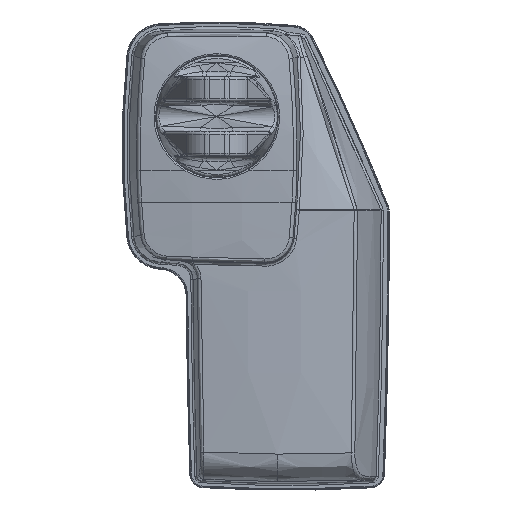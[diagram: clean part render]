
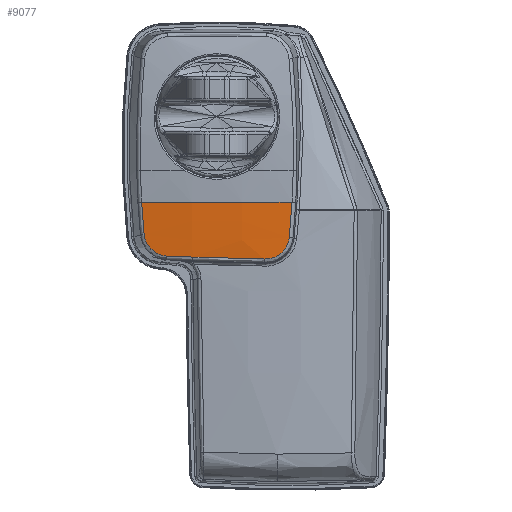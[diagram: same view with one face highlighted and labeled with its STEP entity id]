
A CAD part, top view. The second image highlights one B-rep face of the part: STEP entity #9077.
In plain terms, the highlighted free-form (B-spline) face has degree [3, 3] with [4, 4] control points.
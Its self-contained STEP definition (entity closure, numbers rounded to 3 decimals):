
#136=CARTESIAN_POINT('',(0.,-30.232,-207.5));
#137=DIRECTION('',(0.,-1.,0.));
#138=DIRECTION('',(0.107,0.,0.994));
#139=AXIS2_PLACEMENT_3D('',#136,#137,#138);
#146=CARTESIAN_POINT('',(-26.574,-30.232,39.533));
#223=CARTESIAN_POINT('',(-26.574,-30.232,39.533));
#224=CARTESIAN_POINT('',(-26.499,-31.511,39.452));
#225=CARTESIAN_POINT('',(-26.334,-34.067,39.285));
#226=CARTESIAN_POINT('',(-26.037,-37.899,39.021));
#227=CARTESIAN_POINT('',(-25.807,-40.453,38.834));
#228=CARTESIAN_POINT('',(-25.684,-41.729,38.738));
#230=CARTESIAN_POINT('',(25.579,-42.795,38.658));
#231=CARTESIAN_POINT('',(25.719,-41.4,38.764));
#232=CARTESIAN_POINT('',(25.978,-38.609,38.97));
#233=CARTESIAN_POINT('',(26.31,-34.422,39.262));
#234=CARTESIAN_POINT('',(26.493,-31.629,39.444));
#235=CARTESIAN_POINT('',(26.574,-30.232,39.533));
#237=CARTESIAN_POINT('',(16.83,-50.347,38.721));
#238=CARTESIAN_POINT('',(17.129,-50.356,38.699));
#239=CARTESIAN_POINT('',(17.717,-50.342,38.659));
#240=CARTESIAN_POINT('',(18.563,-50.24,38.607));
#241=CARTESIAN_POINT('',(19.399,-50.056,38.56));
#242=CARTESIAN_POINT('',(20.207,-49.792,38.52));
#243=CARTESIAN_POINT('',(20.982,-49.452,38.488));
#244=CARTESIAN_POINT('',(21.717,-49.038,38.463));
#245=CARTESIAN_POINT('',(22.404,-48.557,38.447));
#246=CARTESIAN_POINT('',(23.039,-48.011,38.44));
#247=CARTESIAN_POINT('',(23.614,-47.407,38.441));
#248=CARTESIAN_POINT('',(24.125,-46.75,38.452));
#249=CARTESIAN_POINT('',(24.569,-46.044,38.473));
#250=CARTESIAN_POINT('',(24.937,-45.305,38.503));
#251=CARTESIAN_POINT('',(25.238,-44.511,38.543));
#252=CARTESIAN_POINT('',(25.46,-43.668,38.594));
#253=CARTESIAN_POINT('',(25.55,-43.089,38.635));
#254=CARTESIAN_POINT('',(25.579,-42.795,38.658));
#256=CARTESIAN_POINT('',(-8.429,-49.662,39.217));
#257=CARTESIAN_POINT('',(-6.554,-49.709,39.276));
#258=CARTESIAN_POINT('',(-2.961,-49.8,39.348));
#259=CARTESIAN_POINT('',(1.957,-49.929,39.342));
#260=CARTESIAN_POINT('',(6.403,-50.049,39.252));
#261=CARTESIAN_POINT('',(10.377,-50.16,39.104));
#262=CARTESIAN_POINT('',(13.879,-50.26,38.92));
#263=CARTESIAN_POINT('',(15.898,-50.319,38.787));
#264=CARTESIAN_POINT('',(16.83,-50.347,38.721));
#266=CARTESIAN_POINT('',(-17.629,-49.31,38.764));
#267=CARTESIAN_POINT('',(-16.608,-49.363,38.832));
#268=CARTESIAN_POINT('',(-14.566,-49.46,38.956));
#269=CARTESIAN_POINT('',(-11.499,-49.577,39.107));
#270=CARTESIAN_POINT('',(-9.453,-49.637,39.184));
#271=CARTESIAN_POINT('',(-8.429,-49.662,39.217));
#273=CARTESIAN_POINT('',(-25.684,-41.729,38.738));
#274=CARTESIAN_POINT('',(-25.656,-42.018,38.717));
#275=CARTESIAN_POINT('',(-25.571,-42.585,38.677));
#276=CARTESIAN_POINT('',(-25.362,-43.4,38.628));
#277=CARTESIAN_POINT('',(-25.071,-44.195,38.588));
#278=CARTESIAN_POINT('',(-24.7,-44.954,38.558));
#279=CARTESIAN_POINT('',(-24.254,-45.674,38.538));
#280=CARTESIAN_POINT('',(-23.736,-46.346,38.527));
#281=CARTESIAN_POINT('',(-23.151,-46.964,38.526));
#282=CARTESIAN_POINT('',(-22.503,-47.522,38.535));
#283=CARTESIAN_POINT('',(-21.8,-48.014,38.552));
#284=CARTESIAN_POINT('',(-21.046,-48.436,38.579));
#285=CARTESIAN_POINT('',(-20.255,-48.779,38.613));
#286=CARTESIAN_POINT('',(-19.414,-49.048,38.655));
#287=CARTESIAN_POINT('',(-18.533,-49.232,38.705));
#288=CARTESIAN_POINT('',(-17.933,-49.295,38.744));
#289=CARTESIAN_POINT('',(-17.629,-49.31,38.764));
#8728=VERTEX_POINT('',#146);
#8730=VERTEX_POINT('',#228);
#8731=VERTEX_POINT('',#289);
#8732=VERTEX_POINT('',#271);
#8733=VERTEX_POINT('',#264);
#8734=VERTEX_POINT('',#254);
#8735=VERTEX_POINT('',#235);
#9046=CARTESIAN_POINT('',(27.636,-29.829,39.444));
#9047=CARTESIAN_POINT('',(27.583,-36.812,38.968));
#9048=CARTESIAN_POINT('',(27.519,-43.787,38.395));
#9049=CARTESIAN_POINT('',(27.444,-50.753,37.725));
#9050=CARTESIAN_POINT('',(9.25,-29.829,41.502));
#9051=CARTESIAN_POINT('',(9.232,-36.812,41.022));
#9052=CARTESIAN_POINT('',(9.211,-43.787,40.444));
#9053=CARTESIAN_POINT('',(9.186,-50.753,39.768));
#9054=CARTESIAN_POINT('',(-9.25,-29.829,
41.502));
#9055=CARTESIAN_POINT('',(-9.232,-36.812,
41.022));
#9056=CARTESIAN_POINT('',(-9.211,-43.787,
40.444));
#9057=CARTESIAN_POINT('',(-9.186,-50.753,
39.768));
#9058=CARTESIAN_POINT('',(-27.636,-29.829,
39.444));
#9059=CARTESIAN_POINT('',(-27.583,-36.812,
38.968));
#9060=CARTESIAN_POINT('',(-27.519,-43.787,
38.395));
#9061=CARTESIAN_POINT('',(-27.444,-50.753,
37.725));
#9062=(BOUNDED_SURFACE()B_SPLINE_SURFACE(3,3,((#9046,#9047,#9048,#9049),(#9050,
#9051,#9052,#9053),(#9054,#9055,#9056,#9057),(#9058,#9059,#9060,#9061)),
.UNSPECIFIED.,.F.,.F.,.F.)B_SPLINE_SURFACE_WITH_KNOTS((4,4),(4,4),(0.,1.),(
0.,1.),.UNSPECIFIED.)GEOMETRIC_REPRESENTATION_ITEM()RATIONAL_B_SPLINE_SURFACE(((1.003,1.003,1.003,1.003),(
0.999,0.999,0.999,0.999),(
0.999,0.999,0.999,0.999),(
1.003,1.003,1.003,1.003)))REPRESENTATION_ITEM('')SURFACE());
#9063=ORIENTED_EDGE('',*,*,#9036,.F.);
#9064=ORIENTED_EDGE('',*,*,#8916,.F.);
#9066=ORIENTED_EDGE('',*,*,#9065,.F.);
#9068=ORIENTED_EDGE('',*,*,#9067,.F.);
#9070=ORIENTED_EDGE('',*,*,#9069,.F.);
#9072=ORIENTED_EDGE('',*,*,#9071,.F.);
#9074=ORIENTED_EDGE('',*,*,#9073,.F.);
#9075=EDGE_LOOP('',(#9063,#9064,#9066,#9068,#9070,#9072,#9074));
#9076=FACE_OUTER_BOUND('',#9075,.F.);
#140=CIRCLE('',#139,248.458);
#229=B_SPLINE_CURVE_WITH_KNOTS('',3,(#223,#224,#225,#226,#227,#228),
.UNSPECIFIED.,.F.,.F.,(4,1,1,4),(0.,0.333,0.667,1.),
.UNSPECIFIED.);
#236=B_SPLINE_CURVE_WITH_KNOTS('',3,(#230,#231,#232,#233,#234,#235),
.UNSPECIFIED.,.F.,.F.,(4,1,1,4),(0.,0.333,0.667,1.),
.UNSPECIFIED.);
#255=B_SPLINE_CURVE_WITH_KNOTS('',3,(#237,#238,#239,#240,#241,#242,#243,#244,
#245,#246,#247,#248,#249,#250,#251,#252,#253,#254),.UNSPECIFIED.,.F.,.F.,(4,1,1,
1,1,1,1,1,1,1,1,1,1,1,1,4),(0.,0.067,0.133,0.2,
0.267,0.333,0.4,0.467,0.533,
0.6,0.667,0.733,0.8,0.867,
0.933,1.),.UNSPECIFIED.);
#265=B_SPLINE_CURVE_WITH_KNOTS('',3,(#256,#257,#258,#259,#260,#261,#262,#263,
#264),.UNSPECIFIED.,.F.,.F.,(4,1,1,1,1,1,4),(0.,0.167,
0.333,0.5,0.667,0.833,1.),
.UNSPECIFIED.);
#272=B_SPLINE_CURVE_WITH_KNOTS('',3,(#266,#267,#268,#269,#270,#271),
.UNSPECIFIED.,.F.,.F.,(4,1,1,4),(0.,0.333,0.667,1.),
.UNSPECIFIED.);
#290=B_SPLINE_CURVE_WITH_KNOTS('',3,(#273,#274,#275,#276,#277,#278,#279,#280,
#281,#282,#283,#284,#285,#286,#287,#288,#289),.UNSPECIFIED.,.F.,.F.,(4,1,1,1,1,
1,1,1,1,1,1,1,1,1,4),(0.,0.071,0.143,
0.214,0.286,0.357,0.429,0.5,
0.571,0.643,0.714,0.786,
0.857,0.929,1.),.UNSPECIFIED.);
#8916=EDGE_CURVE('',#8735,#8728,#140,.T.);
#9036=EDGE_CURVE('',#8728,#8730,#229,.T.);
#9065=EDGE_CURVE('',#8734,#8735,#236,.T.);
#9067=EDGE_CURVE('',#8733,#8734,#255,.T.);
#9069=EDGE_CURVE('',#8732,#8733,#265,.T.);
#9071=EDGE_CURVE('',#8731,#8732,#272,.T.);
#9073=EDGE_CURVE('',#8730,#8731,#290,.T.);
#9077=ADVANCED_FACE('',(#9076),#9062,.T.);
